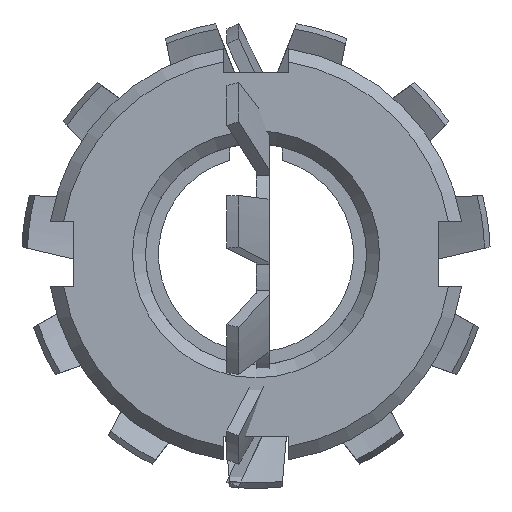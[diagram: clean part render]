
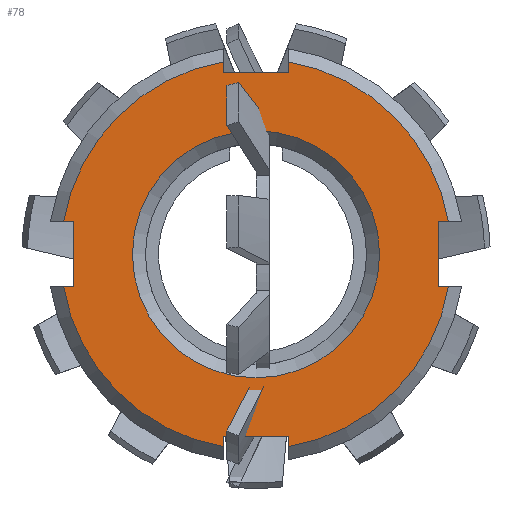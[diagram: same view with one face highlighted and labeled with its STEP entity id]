
A CAD part, front view. The second image highlights one B-rep face of the part: STEP entity #78.
In plain terms, the highlighted planar face has unit normal (0, -1, 0).
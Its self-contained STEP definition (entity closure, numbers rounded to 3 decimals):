
#78 = ADVANCED_FACE( '', ( #174, #175 ), #176, .F. );
#174 = FACE_BOUND( '', #304, .T. );
#175 = FACE_OUTER_BOUND( '', #305, .T. );
#176 = PLANE( '', #306 );
#304 = EDGE_LOOP( '', ( #497 ) );
#305 = EDGE_LOOP( '', ( #498, #499, #500, #501, #502, #503, #504, #505, #506, #507, #508, #509, #510, #511, #512, #513 ) );
#306 = AXIS2_PLACEMENT_3D( '', #514, #515, #516 );
#497 = ORIENTED_EDGE( '', *, *, #971, .F. );
#498 = ORIENTED_EDGE( '', *, *, #972, .F. );
#499 = ORIENTED_EDGE( '', *, *, #973, .T. );
#500 = ORIENTED_EDGE( '', *, *, #974, .T. );
#501 = ORIENTED_EDGE( '', *, *, #975, .T. );
#502 = ORIENTED_EDGE( '', *, *, #976, .F. );
#503 = ORIENTED_EDGE( '', *, *, #977, .T. );
#504 = ORIENTED_EDGE( '', *, *, #978, .T. );
#505 = ORIENTED_EDGE( '', *, *, #979, .T. );
#506 = ORIENTED_EDGE( '', *, *, #980, .F. );
#507 = ORIENTED_EDGE( '', *, *, #981, .T. );
#508 = ORIENTED_EDGE( '', *, *, #982, .T. );
#509 = ORIENTED_EDGE( '', *, *, #983, .T. );
#510 = ORIENTED_EDGE( '', *, *, #984, .F. );
#511 = ORIENTED_EDGE( '', *, *, #985, .T. );
#512 = ORIENTED_EDGE( '', *, *, #986, .T. );
#513 = ORIENTED_EDGE( '', *, *, #987, .T. );
#514 = CARTESIAN_POINT( '', ( 0., -9.5, 16. ) );
#515 = DIRECTION( '', ( 0., 1., 0. ) );
#516 = DIRECTION( '', ( 0., 0., 1. ) );
#971 = EDGE_CURVE( '', #1245, #1245, #1246, .T. );
#972 = EDGE_CURVE( '', #1247, #1248, #1249, .T. );
#973 = EDGE_CURVE( '', #1247, #1250, #1251, .T. );
#974 = EDGE_CURVE( '', #1250, #1252, #1253, .T. );
#975 = EDGE_CURVE( '', #1252, #1254, #1255, .F. );
#976 = EDGE_CURVE( '', #1256, #1254, #1257, .T. );
#977 = EDGE_CURVE( '', #1256, #1258, #1259, .T. );
#978 = EDGE_CURVE( '', #1258, #1260, #1261, .T. );
#979 = EDGE_CURVE( '', #1260, #1262, #1263, .F. );
#980 = EDGE_CURVE( '', #1264, #1262, #1265, .T. );
#981 = EDGE_CURVE( '', #1264, #1266, #1267, .T. );
#982 = EDGE_CURVE( '', #1266, #1268, #1269, .T. );
#983 = EDGE_CURVE( '', #1268, #1270, #1271, .F. );
#984 = EDGE_CURVE( '', #1272, #1270, #1273, .T. );
#985 = EDGE_CURVE( '', #1272, #1274, #1275, .T. );
#986 = EDGE_CURVE( '', #1274, #1276, #1277, .T. );
#987 = EDGE_CURVE( '', #1276, #1248, #1278, .F. );
#1245 = VERTEX_POINT( '', #2071 );
#1246 = CIRCLE( '', #2072, 9.5 );
#1247 = VERTEX_POINT( '', #2073 );
#1248 = VERTEX_POINT( '', #2074 );
#1249 = LINE( '', #2075, #2076 );
#1250 = VERTEX_POINT( '', #2077 );
#1251 = LINE( '', #2078, #2079 );
#1252 = VERTEX_POINT( '', #2080 );
#1253 = LINE( '', #2081, #2082 );
#1254 = VERTEX_POINT( '', #2083 );
#1255 = CIRCLE( '', #2084, 15. );
#1256 = VERTEX_POINT( '', #2085 );
#1257 = LINE( '', #2086, #2087 );
#1258 = VERTEX_POINT( '', #2088 );
#1259 = LINE( '', #2089, #2090 );
#1260 = VERTEX_POINT( '', #2091 );
#1261 = LINE( '', #2092, #2093 );
#1262 = VERTEX_POINT( '', #2094 );
#1263 = CIRCLE( '', #2095, 15. );
#1264 = VERTEX_POINT( '', #2096 );
#1265 = LINE( '', #2097, #2098 );
#1266 = VERTEX_POINT( '', #2099 );
#1267 = LINE( '', #2100, #2101 );
#1268 = VERTEX_POINT( '', #2102 );
#1269 = LINE( '', #2103, #2104 );
#1270 = VERTEX_POINT( '', #2105 );
#1271 = CIRCLE( '', #2106, 15. );
#1272 = VERTEX_POINT( '', #2107 );
#1273 = LINE( '', #2108, #2109 );
#1274 = VERTEX_POINT( '', #2110 );
#1275 = LINE( '', #2111, #2112 );
#1276 = VERTEX_POINT( '', #2113 );
#1277 = LINE( '', #2114, #2115 );
#1278 = CIRCLE( '', #2116, 15. );
#2071 = CARTESIAN_POINT( '', ( 0., -9.5, -9.5 ) );
#2072 = AXIS2_PLACEMENT_3D( '', #2620, #2621, #2622 );
#2073 = CARTESIAN_POINT( '', ( -14., -9.5, 2.5 ) );
#2074 = CARTESIAN_POINT( '', ( -14.79, -9.5, 2.5 ) );
#2075 = CARTESIAN_POINT( '', ( -16., -9.5, 2.5 ) );
#2076 = VECTOR( '', #2623, 1000. );
#2077 = CARTESIAN_POINT( '', ( -14., -9.5, -2.5 ) );
#2078 = CARTESIAN_POINT( '', ( -14., -9.5, 2.5 ) );
#2079 = VECTOR( '', #2624, 1000. );
#2080 = CARTESIAN_POINT( '', ( -14.79, -9.5, -2.5 ) );
#2081 = CARTESIAN_POINT( '', ( -16., -9.5, -2.5 ) );
#2082 = VECTOR( '', #2625, 1000. );
#2083 = CARTESIAN_POINT( '', ( -2.5, -9.5, -14.79 ) );
#2084 = AXIS2_PLACEMENT_3D( '', #2626, #2627, #2628 );
#2085 = CARTESIAN_POINT( '', ( -2.5, -9.5, -14. ) );
#2086 = CARTESIAN_POINT( '', ( -2.5, -9.5, -16. ) );
#2087 = VECTOR( '', #2629, 1000. );
#2088 = CARTESIAN_POINT( '', ( 2.5, -9.5, -14. ) );
#2089 = CARTESIAN_POINT( '', ( -2.5, -9.5, -14. ) );
#2090 = VECTOR( '', #2630, 1000. );
#2091 = CARTESIAN_POINT( '', ( 2.5, -9.5, -14.79 ) );
#2092 = CARTESIAN_POINT( '', ( 2.5, -9.5, -16. ) );
#2093 = VECTOR( '', #2631, 1000. );
#2094 = CARTESIAN_POINT( '', ( 14.79, -9.5, -2.5 ) );
#2095 = AXIS2_PLACEMENT_3D( '', #2632, #2633, #2634 );
#2096 = CARTESIAN_POINT( '', ( 14., -9.5, -2.5 ) );
#2097 = CARTESIAN_POINT( '', ( 16., -9.5, -2.5 ) );
#2098 = VECTOR( '', #2635, 1000. );
#2099 = CARTESIAN_POINT( '', ( 14., -9.5, 2.5 ) );
#2100 = CARTESIAN_POINT( '', ( 14., -9.5, -2.5 ) );
#2101 = VECTOR( '', #2636, 1000. );
#2102 = CARTESIAN_POINT( '', ( 14.79, -9.5, 2.5 ) );
#2103 = CARTESIAN_POINT( '', ( 16., -9.5, 2.5 ) );
#2104 = VECTOR( '', #2637, 1000. );
#2105 = CARTESIAN_POINT( '', ( 2.5, -9.5, 14.79 ) );
#2106 = AXIS2_PLACEMENT_3D( '', #2638, #2639, #2640 );
#2107 = CARTESIAN_POINT( '', ( 2.5, -9.5, 14. ) );
#2108 = CARTESIAN_POINT( '', ( 2.5, -9.5, 16. ) );
#2109 = VECTOR( '', #2641, 1000. );
#2110 = CARTESIAN_POINT( '', ( -2.5, -9.5, 14. ) );
#2111 = CARTESIAN_POINT( '', ( 2.5, -9.5, 14. ) );
#2112 = VECTOR( '', #2642, 1000. );
#2113 = CARTESIAN_POINT( '', ( -2.5, -9.5, 14.79 ) );
#2114 = CARTESIAN_POINT( '', ( -2.5, -9.5, 16. ) );
#2115 = VECTOR( '', #2643, 1000. );
#2116 = AXIS2_PLACEMENT_3D( '', #2644, #2645, #2646 );
#2620 = CARTESIAN_POINT( '', ( 0., -9.5, 0. ) );
#2621 = DIRECTION( '', ( 0., -1., 0. ) );
#2622 = DIRECTION( '', ( 0., 0., -1. ) );
#2623 = DIRECTION( '', ( -1., 0., 0. ) );
#2624 = DIRECTION( '', ( 0., 0., -1. ) );
#2625 = DIRECTION( '', ( -1., 0., 0. ) );
#2626 = CARTESIAN_POINT( '', ( 0., -9.5, 0. ) );
#2627 = DIRECTION( '', ( 0., 1., 0. ) );
#2628 = DIRECTION( '', ( 0., 0., 1. ) );
#2629 = DIRECTION( '', ( 0., 0., -1. ) );
#2630 = DIRECTION( '', ( 1., 0., 0. ) );
#2631 = DIRECTION( '', ( 0., 0., -1. ) );
#2632 = CARTESIAN_POINT( '', ( 0., -9.5, 0. ) );
#2633 = DIRECTION( '', ( 0., 1., 0. ) );
#2634 = DIRECTION( '', ( 0., 0., 1. ) );
#2635 = DIRECTION( '', ( 1., 0., 0. ) );
#2636 = DIRECTION( '', ( 0., 0., 1. ) );
#2637 = DIRECTION( '', ( 1., 0., 0. ) );
#2638 = CARTESIAN_POINT( '', ( 0., -9.5, 0. ) );
#2639 = DIRECTION( '', ( 0., 1., 0. ) );
#2640 = DIRECTION( '', ( 0., 0., 1. ) );
#2641 = DIRECTION( '', ( 0., 0., 1. ) );
#2642 = DIRECTION( '', ( -1., 0., 0. ) );
#2643 = DIRECTION( '', ( 0., 0., 1. ) );
#2644 = CARTESIAN_POINT( '', ( 0., -9.5, 0. ) );
#2645 = DIRECTION( '', ( 0., 1., 0. ) );
#2646 = DIRECTION( '', ( 0., 0., 1. ) );
